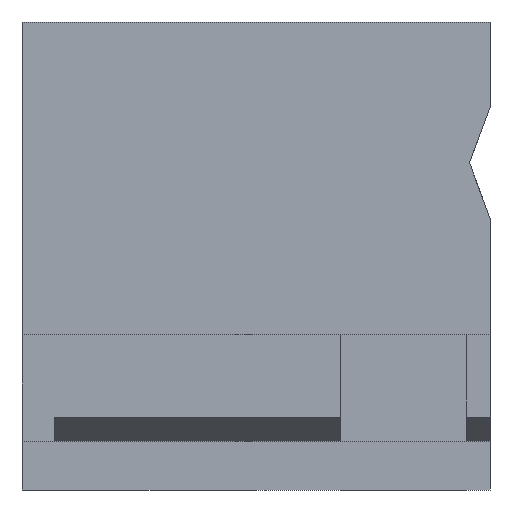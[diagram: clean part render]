
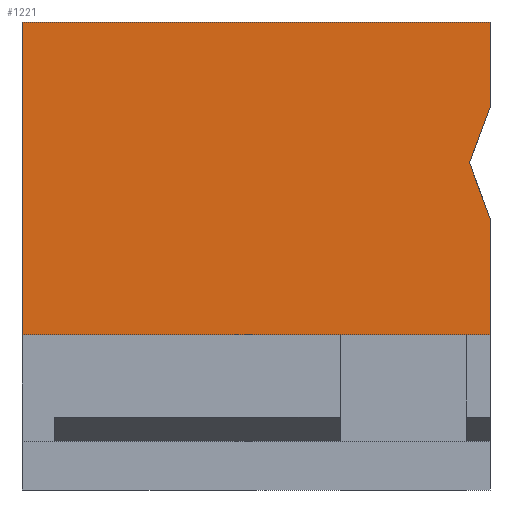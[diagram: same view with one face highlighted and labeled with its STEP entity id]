
A CAD part, left-side view. The second image highlights one B-rep face of the part: STEP entity #1221.
In plain terms, the highlighted planar face has unit normal (-1, 0, 0).
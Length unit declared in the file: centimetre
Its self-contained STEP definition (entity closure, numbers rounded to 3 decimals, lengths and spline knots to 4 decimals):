
#1 = EDGE_CURVE ( 'NONE', #1331, #1163, #365, .T. ) ;
#51 = CARTESIAN_POINT ( 'NONE',  ( 0., 1000., 331.9321 ) ) ;
#111 = CARTESIAN_POINT ( 'NONE',  ( 0., 1000., 1000. ) ) ;
#129 = LINE ( 'NONE', #695, #803 ) ;
#156 = ORIENTED_EDGE ( 'NONE', *, *, #317, .F. ) ;
#173 = DIRECTION ( 'NONE',  ( 0., 0., -1. ) ) ;
#273 = ORIENTED_EDGE ( 'NONE', *, *, #1097, .F. ) ;
#283 = DIRECTION ( 'NONE',  ( 1., 0., 0. ) ) ;
#298 = CARTESIAN_POINT ( 'NONE',  ( 0., 43.7522, 698.9088 ) ) ;
#317 = EDGE_CURVE ( 'NONE', #670, #983, #682, .T. ) ;
#338 = VECTOR ( 'NONE', #487, 100. ) ;
#365 = LINE ( 'NONE', #1400, #338 ) ;
#386 = VECTOR ( 'NONE', #753, 100. ) ;
#465 = LINE ( 'NONE', #934, #691 ) ;
#466 = CARTESIAN_POINT ( 'NONE',  ( 0., 0., 1000. ) ) ;
#487 = DIRECTION ( 'NONE',  ( 0., 0., -1. ) ) ;
#521 = PLANE ( 'NONE',  #1006 ) ;
#528 = LINE ( 'NONE', #298, #386 ) ;
#550 = DIRECTION ( 'NONE',  ( 0., 0., -1. ) ) ;
#553 = CARTESIAN_POINT ( 'NONE',  ( 0., 43.7522, 698.9088 ) ) ;
#641 = LINE ( 'NONE', #1475, #1233 ) ;
#652 = ORIENTED_EDGE ( 'NONE', *, *, #1319, .F. ) ;
#670 = VERTEX_POINT ( 'NONE', #553 ) ;
#680 = VERTEX_POINT ( 'NONE', #782 ) ;
#682 = LINE ( 'NONE', #1494, #996 ) ;
#684 = EDGE_LOOP ( 'NONE', ( #800, #972, #787, #156, #1350, #652, #273 ) ) ;
#691 = VECTOR ( 'NONE', #825, 100. ) ;
#695 = CARTESIAN_POINT ( 'NONE',  ( 0., 0., 1000. ) ) ;
#753 = DIRECTION ( 'NONE',  ( 0., 0.347, -0.938 ) ) ;
#782 = CARTESIAN_POINT ( 'NONE',  ( 0., 0., 817.3463 ) ) ;
#787 = ORIENTED_EDGE ( 'NONE', *, *, #1167, .F. ) ;
#792 = DIRECTION ( 'NONE',  ( 0., -0.347, -0.938 ) ) ;
#800 = ORIENTED_EDGE ( 'NONE', *, *, #1, .T. ) ;
#803 = VECTOR ( 'NONE', #1269, 100. ) ;
#825 = DIRECTION ( 'NONE',  ( 0., 1., 0. ) ) ;
#831 = EDGE_CURVE ( 'NONE', #1433, #1163, #465, .T. ) ;
#928 = CARTESIAN_POINT ( 'NONE',  ( 0., 0., 580.4712 ) ) ;
#934 = CARTESIAN_POINT ( 'NONE',  ( 0., 0., 331.9321 ) ) ;
#972 = ORIENTED_EDGE ( 'NONE', *, *, #831, .F. ) ;
#983 = VERTEX_POINT ( 'NONE', #928 ) ;
#996 = VECTOR ( 'NONE', #792, 100. ) ;
#1006 = AXIS2_PLACEMENT_3D ( 'NONE', #1099, #283, #173 ) ;
#1019 = VERTEX_POINT ( 'NONE', #466 ) ;
#1097 = EDGE_CURVE ( 'NONE', #1331, #1019, #1155, .T. ) ;
#1099 = CARTESIAN_POINT ( 'NONE',  ( 0., 1000., 1000. ) ) ;
#1155 = LINE ( 'NONE', #1428, #1330 ) ;
#1163 = VERTEX_POINT ( 'NONE', #51 ) ;
#1167 = EDGE_CURVE ( 'NONE', #983, #1433, #641, .T. ) ;
#1169 = CARTESIAN_POINT ( 'NONE',  ( 0., 0., 331.9321 ) ) ;
#1183 = DIRECTION ( 'NONE',  ( 0., -1., 0. ) ) ;
#1202 = FACE_OUTER_BOUND ( 'NONE', #684, .T. ) ;
#1221 = ADVANCED_FACE ( 'NONE', ( #1202 ), #521, .F. ) ;
#1233 = VECTOR ( 'NONE', #550, 100. ) ;
#1269 = DIRECTION ( 'NONE',  ( 0., 0., -1. ) ) ;
#1286 = EDGE_CURVE ( 'NONE', #680, #670, #528, .T. ) ;
#1319 = EDGE_CURVE ( 'NONE', #1019, #680, #129, .T. ) ;
#1330 = VECTOR ( 'NONE', #1183, 100. ) ;
#1331 = VERTEX_POINT ( 'NONE', #111 ) ;
#1350 = ORIENTED_EDGE ( 'NONE', *, *, #1286, .F. ) ;
#1400 = CARTESIAN_POINT ( 'NONE',  ( 0., 1000., 1000. ) ) ;
#1428 = CARTESIAN_POINT ( 'NONE',  ( 0., 1000., 1000. ) ) ;
#1433 = VERTEX_POINT ( 'NONE', #1169 ) ;
#1475 = CARTESIAN_POINT ( 'NONE',  ( 0., 0., 1000. ) ) ;
#1494 = CARTESIAN_POINT ( 'NONE',  ( 0., 0., 580.4712 ) ) ;
